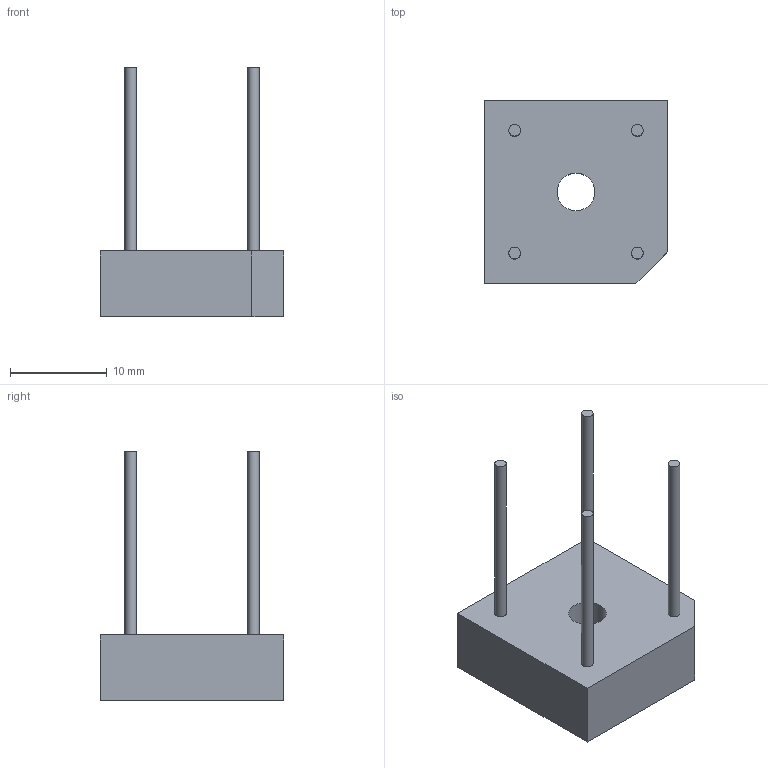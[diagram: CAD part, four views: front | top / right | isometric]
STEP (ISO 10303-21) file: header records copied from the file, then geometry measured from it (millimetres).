
FILE_DESCRIPTION(/* description */ (''),/* implementation_level */ '2;1');
FILE_NAME(/* name */ 'P17-KBPC8_farbig.stp',/* time_stamp */ '2020-03-12T09:02:18+01:00',/* author */ (''),/* organization */ (''),/* preprocessor_version */ 'ST-DEVELOPER v14',/* originating_system */ 'SIEMENS PLM Software NX 8.0',/* authorisation */ '');
FILE_SCHEMA (('AUTOMOTIVE_DESIGN { 1 0 10303 214 3 1 1 1 }'));
Length unit declared in the file: millimetre
Products named in the file (1): 017003-06151-body
Bounding box: 19 x 19 x 25.8 mm (x, y, z)
Volume: 2422.5 mm3; surface area: 1569.7 mm2
Topology: 5 solids, 5 shells, 20 faces, 30 edges, 20 vertices
Faces by surface type: plane 15, cylinder 5
Full cylindrical faces by diameter (mm): 1.2 x4, 3.9 x1
Entity records: 574 total; most frequent: DIRECTION 77, CARTESIAN_POINT 72, ORIENTED_EDGE 50, AXIS2_PLACEMENT_3D 31, EDGE_LOOP 27, PROPERTY_DEFINITION 25, EDGE_CURVE 25, PROPERTY_DEFINITION_REPRESENTATION 20
